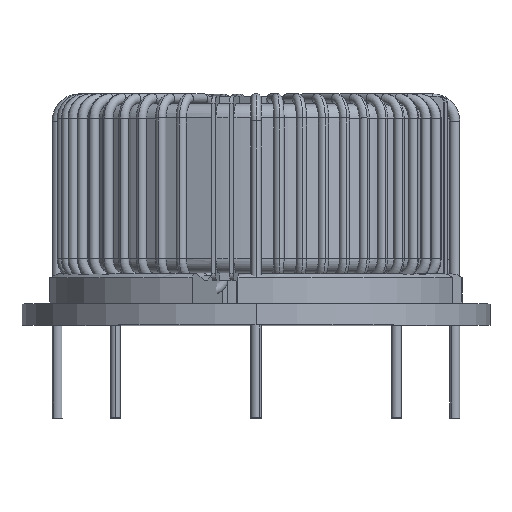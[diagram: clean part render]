
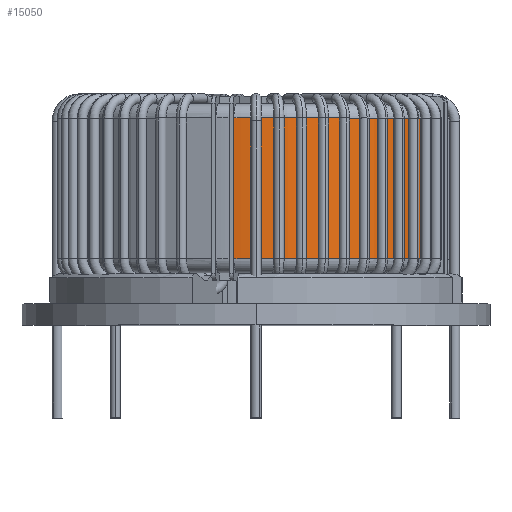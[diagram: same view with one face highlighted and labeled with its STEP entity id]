
A CAD part, top view. The second image highlights one B-rep face of the part: STEP entity #15050.
In plain terms, the highlighted cylindrical face has radius 26.73 mm (diameter 53.46 mm), a partial arc.
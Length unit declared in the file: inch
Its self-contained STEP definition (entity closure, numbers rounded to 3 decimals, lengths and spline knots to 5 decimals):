
#47 = VERTEX_POINT ( 'NONE', #35635 ) ;
#122 = VERTEX_POINT ( 'NONE', #33522 ) ;
#729 = ORIENTED_EDGE ( 'NONE', *, *, #32067, .T. ) ;
#1011 = AXIS2_PLACEMENT_3D ( 'NONE', #7550, #28013, #14552 ) ;
#5666 = DIRECTION ( 'NONE',  ( 0., 1., 0. ) ) ;
#6344 = CIRCLE ( 'NONE', #10614, 1.05236 ) ;
#6760 = CARTESIAN_POINT ( 'NONE',  ( 0., 0.36811, 0. ) ) ;
#7013 = EDGE_LOOP ( 'NONE', ( #14753, #729, #10110, #21820, #31118, #7186 ) ) ;
#7186 = ORIENTED_EDGE ( 'NONE', *, *, #7780, .T. ) ;
#7330 = CARTESIAN_POINT ( 'NONE',  ( 0., 1.14882, 0. ) ) ;
#7550 = CARTESIAN_POINT ( 'NONE',  ( 0., 1.22756, 0. ) ) ;
#7780 = EDGE_CURVE ( 'NONE', #19267, #122, #26661, .T. ) ;
#7963 = CIRCLE ( 'NONE', #22074, 1.05236 ) ;
#8475 = CARTESIAN_POINT ( 'NONE',  ( -0.12277, 1.22756, 1.04518 ) ) ;
#10110 = ORIENTED_EDGE ( 'NONE', *, *, #11726, .T. ) ;
#10614 = AXIS2_PLACEMENT_3D ( 'NONE', #35345, #14292, #26612 ) ;
#11701 = VERTEX_POINT ( 'NONE', #35327 ) ;
#11726 = EDGE_CURVE ( 'NONE', #11701, #47, #22499, .T. ) ;
#11953 = VERTEX_POINT ( 'NONE', #14349 ) ;
#12455 = VECTOR ( 'NONE', #33081, 39.37008 ) ;
#14292 = DIRECTION ( 'NONE',  ( 0., -1., 0. ) ) ;
#14349 = CARTESIAN_POINT ( 'NONE',  ( 0., 0.36811, 1.05236 ) ) ;
#14552 = DIRECTION ( 'NONE',  ( 0., 0., -1. ) ) ;
#14753 = ORIENTED_EDGE ( 'NONE', *, *, #32418, .T. ) ;
#15050 = ADVANCED_FACE ( 'NONE', ( #22308 ), #16327, .T. ) ;
#15518 = DIRECTION ( 'NONE',  ( 0., 0., 1. ) ) ;
#16327 = CYLINDRICAL_SURFACE ( 'NONE', #1011, 1.05236 ) ;
#19031 = DIRECTION ( 'NONE',  ( 0., 0., 1. ) ) ;
#19267 = VERTEX_POINT ( 'NONE', #28085 ) ;
#21820 = ORIENTED_EDGE ( 'NONE', *, *, #33852, .T. ) ;
#22074 = AXIS2_PLACEMENT_3D ( 'NONE', #6760, #27201, #15518 ) ;
#22237 = AXIS2_PLACEMENT_3D ( 'NONE', #24933, #5666, #26090 ) ;
#22308 = FACE_OUTER_BOUND ( 'NONE', #7013, .T. ) ;
#22499 = LINE ( 'NONE', #8475, #29373 ) ;
#22688 = CIRCLE ( 'NONE', #22237, 1.05236 ) ;
#23977 = VERTEX_POINT ( 'NONE', #29573 ) ;
#24933 = CARTESIAN_POINT ( 'NONE',  ( 0., 0.36811, 0. ) ) ;
#26090 = DIRECTION ( 'NONE',  ( 0., 0., 1. ) ) ;
#26612 = DIRECTION ( 'NONE',  ( 0., 0., 1. ) ) ;
#26661 = LINE ( 'NONE', #30148, #12455 ) ;
#27201 = DIRECTION ( 'NONE',  ( 0., 1., 0. ) ) ;
#27351 = EDGE_CURVE ( 'NONE', #11953, #19267, #7963, .T. ) ;
#27787 = DIRECTION ( 'NONE',  ( 0., -1., 0. ) ) ;
#28013 = DIRECTION ( 'NONE',  ( 0., -1., 0. ) ) ;
#28085 = CARTESIAN_POINT ( 'NONE',  ( 1.02413, 0.36811, 0.24211 ) ) ;
#28929 = DIRECTION ( 'NONE',  ( 0., -1., 0. ) ) ;
#29373 = VECTOR ( 'NONE', #28929, 39.37008 ) ;
#29573 = CARTESIAN_POINT ( 'NONE',  ( 0., 1.14882, 1.05236 ) ) ;
#30090 = AXIS2_PLACEMENT_3D ( 'NONE', #7330, #27787, #19031 ) ;
#30148 = CARTESIAN_POINT ( 'NONE',  ( 1.02413, 1.22756, 0.24211 ) ) ;
#31118 = ORIENTED_EDGE ( 'NONE', *, *, #27351, .T. ) ;
#32067 = EDGE_CURVE ( 'NONE', #23977, #11701, #32306, .T. ) ;
#32306 = CIRCLE ( 'NONE', #30090, 1.05236 ) ;
#32418 = EDGE_CURVE ( 'NONE', #122, #23977, #6344, .T. ) ;
#33081 = DIRECTION ( 'NONE',  ( 0., 1., 0. ) ) ;
#33522 = CARTESIAN_POINT ( 'NONE',  ( 1.02413, 1.14882, 0.24211 ) ) ;
#33852 = EDGE_CURVE ( 'NONE', #47, #11953, #22688, .T. ) ;
#35327 = CARTESIAN_POINT ( 'NONE',  ( -0.12277, 1.14882, 1.04518 ) ) ;
#35345 = CARTESIAN_POINT ( 'NONE',  ( 0., 1.14882, 0. ) ) ;
#35635 = CARTESIAN_POINT ( 'NONE',  ( -0.12277, 0.36811, 1.04518 ) ) ;
